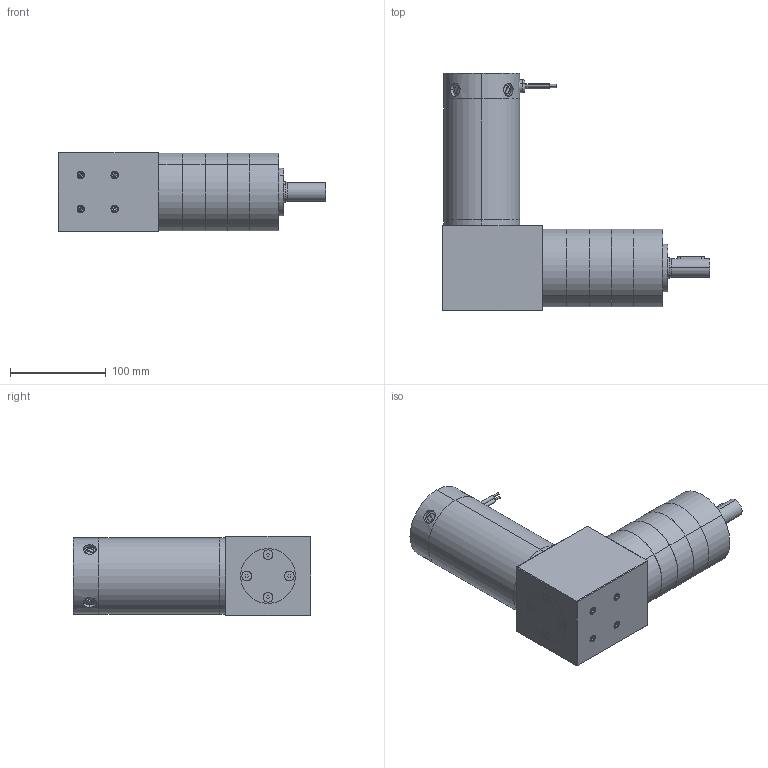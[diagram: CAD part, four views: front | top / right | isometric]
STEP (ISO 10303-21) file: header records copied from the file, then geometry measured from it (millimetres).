
FILE_DESCRIPTION (( 'STEP AP203' ), '1' );
FILE_NAME ('d33655bgra4.step', '2018-12-07T19:42:33', ( '' ), ( '' ), 'SwSTEP 2.0', 'SolidWorks 2017', '' );
FILE_SCHEMA (( 'CONFIG_CONTROL_DESIGN' ));
Length unit declared in the file: inch
Products named in the file (1): d33655bgra4
Bounding box: 278.98 x 247.4 x 82.55 mm (x, y, z)
Volume: 2213554.8 mm3; surface area: 228689.4 mm2
Topology: 27 solids, 27 shells, 1116 faces, 2815 edges, 1802 vertices
Faces by surface type: cylinder 695, plane 294, cone 101, torus 14, bspline 8, sphere 4
Entity records: 52797 total; most frequent: CARTESIAN_POINT 28604, ORIENTED_EDGE 5582, DIRECTION 4544, EDGE_CURVE 2791, VERTEX_POINT 1802, AXIS2_PLACEMENT_3D 1674, EDGE_LOOP 1221, LINE 1196
